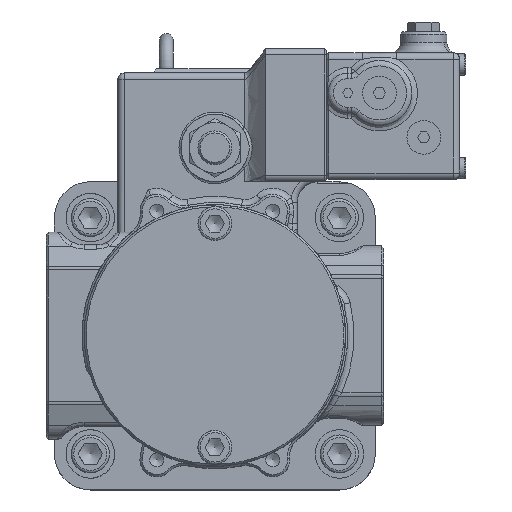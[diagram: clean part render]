
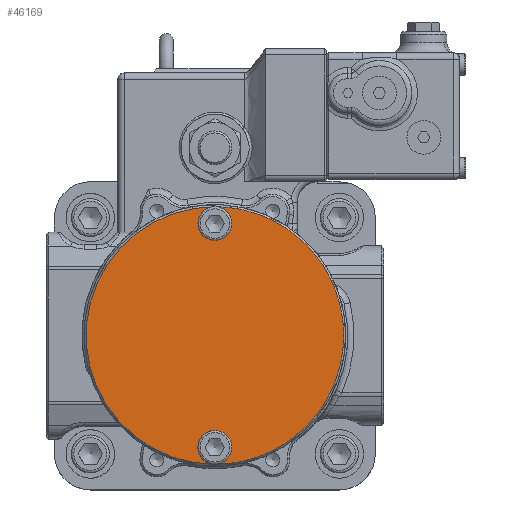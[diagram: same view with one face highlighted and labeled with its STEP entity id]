
A CAD part, top view. The second image highlights one B-rep face of the part: STEP entity #46169.
In plain terms, the highlighted planar face has unit normal (0, 0, 1).
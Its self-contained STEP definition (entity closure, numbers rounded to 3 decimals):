
#160=CARTESIAN_POINT('',(0.,61.,258.7));
#161=VERTEX_POINT('',#160);
#162=CARTESIAN_POINT('',(0.,53.,258.7));
#163=DIRECTION('',(0.0,0.0,-1.0));
#164=DIRECTION('',(0.0,1.0,0.0));
#165=AXIS2_PLACEMENT_3D('',#162,#163,#164);
#166=CIRCLE('',#165,8.);
#167=EDGE_CURVE('',#161,#161,#166,.T.);
#46060=CARTESIAN_POINT('',(0.,-61.,258.7));
#46061=VERTEX_POINT('',#46060);
#46062=CARTESIAN_POINT('',(0.,0.,258.7));
#46063=DIRECTION('',(0.0,0.0,-1.0));
#46064=DIRECTION('',(-1.0,0.0,0.0));
#46065=AXIS2_PLACEMENT_3D('',#46062,#46063,#46064);
#46066=CIRCLE('',#46065,61.0);
#46067=EDGE_CURVE('',#161,#46061,#46066,.T.);
#46069=CARTESIAN_POINT('',(0.,0.,258.7));
#46070=DIRECTION('',(0.0,0.0,-1.0));
#46071=DIRECTION('',(-1.0,0.0,0.0));
#46072=AXIS2_PLACEMENT_3D('',#46069,#46070,#46071);
#46073=CIRCLE('',#46072,61.0);
#46074=EDGE_CURVE('',#46061,#161,#46073,.T.);
#46152=CARTESIAN_POINT('',(0.,0.,258.7));
#46153=DIRECTION('',(0.0,0.0,-1.0));
#46154=DIRECTION('',(-1.0,0.0,0.0));
#46155=AXIS2_PLACEMENT_3D('',#46152,#46153,#46154);
#46156=PLANE('',#46155);
#46157=ORIENTED_EDGE('',*,*,#46067,.F.);
#46158=ORIENTED_EDGE('',*,*,#167,.T.);
#46159=ORIENTED_EDGE('',*,*,#46074,.F.);
#46160=CARTESIAN_POINT('',(0.,-53.,258.7));
#46161=DIRECTION('',(0.0,0.0,-1.0));
#46162=DIRECTION('',(0.0,1.0,0.0));
#46163=AXIS2_PLACEMENT_3D('',#46160,#46161,#46162);
#46164=CIRCLE('',#46163,8.);
#46165=EDGE_CURVE('',#46061,#46061,#46164,.T.);
#46166=ORIENTED_EDGE('',*,*,#46165,.T.);
#46167=EDGE_LOOP('',(#46157,#46158,#46159,#46166));
#46168=FACE_OUTER_BOUND('',#46167,.T.);
#46169=ADVANCED_FACE('',(#46168),#46156,.F.);
